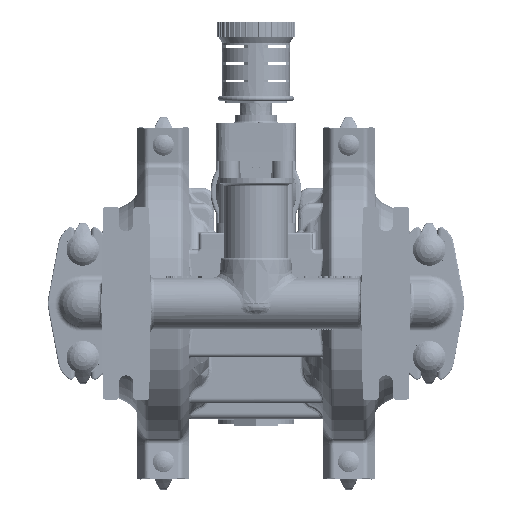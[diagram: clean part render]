
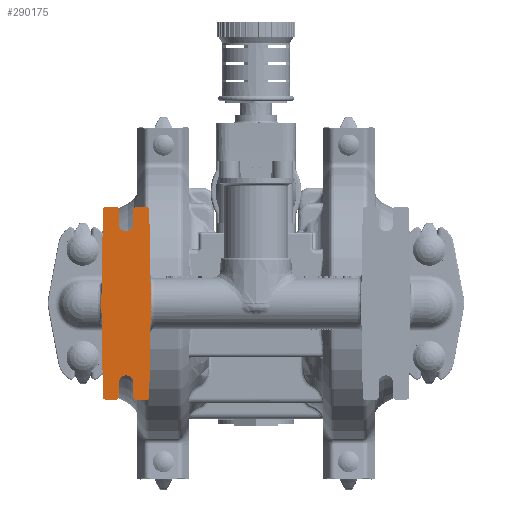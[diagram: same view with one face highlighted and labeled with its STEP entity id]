
A CAD part, front view. The second image highlights one B-rep face of the part: STEP entity #290175.
In plain terms, the highlighted planar face has unit normal (0, -1, 0).
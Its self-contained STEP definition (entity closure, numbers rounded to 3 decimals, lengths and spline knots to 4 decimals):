
#196758=DIRECTION('',(0.017,0.,-1.));
#196759=VECTOR('',#196758,2.4414);
#196760=CARTESIAN_POINT('',(-2.774,-5.7,2.441));
#196761=LINE('',#196760,#196759);
#196892=DIRECTION('',(1.,0.,0.));
#196893=VECTOR('',#196892,0.2903);
#196894=CARTESIAN_POINT('',(-3.916,-5.7,-2.5));
#196895=LINE('',#196894,#196893);
#196908=CARTESIAN_POINT('',(-3.6258,-5.7,-2.44));
#196909=DIRECTION('',(0.,1.,0.));
#196910=DIRECTION('',(1.,0.,-0.009));
#196911=AXIS2_PLACEMENT_3D('',#196908,#196909,#196910);
#196918=DIRECTION('',(0.009,0.,1.));
#196919=VECTOR('',#196918,0.376);
#196920=CARTESIAN_POINT('',(-3.5658,-5.7,-2.4405));
#196921=LINE('',#196920,#196919);
#196934=CARTESIAN_POINT('',(-3.375,-5.7,-2.06));
#196935=DIRECTION('',(0.,-1.,0.));
#196936=DIRECTION('',(1.,0.,-0.024));
#196937=AXIS2_PLACEMENT_3D('',#196934,#196935,#196936);
#197052=DIRECTION('',(0.009,0.,-1.));
#197053=VECTOR('',#197052,0.376);
#197054=CARTESIAN_POINT('',(-3.1875,-5.7,-2.0646));
#197055=LINE('',#197054,#197053);
#197068=CARTESIAN_POINT('',(-3.1242,-5.7,-2.44));
#197069=DIRECTION('',(0.,1.,0.));
#197070=DIRECTION('',(0.,0.,-1.));
#197071=AXIS2_PLACEMENT_3D('',#197068,#197069,#197070);
#197078=DIRECTION('',(1.,0.,0.));
#197079=VECTOR('',#197078,0.2903);
#197080=CARTESIAN_POINT('',(-3.1242,-5.7,-2.5));
#197081=LINE('',#197080,#197079);
#197094=CARTESIAN_POINT('',(-2.834,-5.7,-2.44));
#197095=DIRECTION('',(0.,-1.,0.));
#197096=DIRECTION('',(0.,0.,-1.));
#197097=AXIS2_PLACEMENT_3D('',#197094,#197095,#197096);
#197104=DIRECTION('',(-0.017,0.,-1.));
#197105=VECTOR('',#197104,2.4414);
#197106=CARTESIAN_POINT('',(-2.7314,-5.7,0.));
#197107=LINE('',#197106,#197105);
#198065=CARTESIAN_POINT('',(-3.916,-5.7,-2.44));
#198066=DIRECTION('',(0.,1.,0.));
#198067=DIRECTION('',(0.,0.,-1.));
#198068=AXIS2_PLACEMENT_3D('',#198065,#198066,#198067);
#198075=DIRECTION('',(0.017,0.,-1.));
#198076=VECTOR('',#198075,2.4414);
#198077=CARTESIAN_POINT('',(-4.0186,-5.7,0.));
#198078=LINE('',#198077,#198076);
#198894=DIRECTION('',(0.017,0.,1.));
#198895=VECTOR('',#198894,2.4414);
#198896=CARTESIAN_POINT('',(-4.0186,-5.7,0.));
#198897=LINE('',#198896,#198895);
#199582=CARTESIAN_POINT('',(-3.6258,-5.7,2.44));
#199583=DIRECTION('',(0.,1.,0.));
#199584=DIRECTION('',(0.,0.,1.));
#199585=AXIS2_PLACEMENT_3D('',#199582,#199583,#199584);
#199592=DIRECTION('',(-1.,0.,0.));
#199593=VECTOR('',#199592,0.2903);
#199594=CARTESIAN_POINT('',(-3.6258,-5.7,2.5));
#199595=LINE('',#199594,#199593);
#199608=CARTESIAN_POINT('',(-3.916,-5.7,2.44));
#199609=DIRECTION('',(0.,-1.,0.));
#199610=DIRECTION('',(0.,0.,1.));
#199611=AXIS2_PLACEMENT_3D('',#199608,#199609,#199610);
#199623=DIRECTION('',(-0.009,0.,1.));
#199624=VECTOR('',#199623,0.376);
#199625=CARTESIAN_POINT('',(-3.5625,-5.7,2.0646));
#199626=LINE('',#199625,#199624);
#199735=CARTESIAN_POINT('',(-3.1242,-5.7,2.44));
#199736=DIRECTION('',(0.,1.,0.));
#199737=DIRECTION('',(-1.,0.,0.009));
#199738=AXIS2_PLACEMENT_3D('',#199735,#199736,#199737);
#199745=DIRECTION('',(-0.009,0.,-1.));
#199746=VECTOR('',#199745,0.376);
#199747=CARTESIAN_POINT('',(-3.1842,-5.7,2.4405));
#199748=LINE('',#199747,#199746);
#199761=CARTESIAN_POINT('',(-3.375,-5.7,2.06));
#199762=DIRECTION('',(0.,-1.,0.));
#199763=DIRECTION('',(-1.,0.,0.024));
#199764=AXIS2_PLACEMENT_3D('',#199761,#199762,#199763);
#199883=DIRECTION('',(-1.,0.,0.));
#199884=VECTOR('',#199883,0.2903);
#199885=CARTESIAN_POINT('',(-2.834,-5.7,2.5));
#199886=LINE('',#199885,#199884);
#199909=CARTESIAN_POINT('',(-2.834,-5.7,2.44));
#199910=DIRECTION('',(0.,1.,0.));
#199911=DIRECTION('',(0.,0.,1.));
#199912=AXIS2_PLACEMENT_3D('',#199909,#199910,#199911);
#282991=CARTESIAN_POINT('',(-3.916,-5.7,-2.5));
#282992=CARTESIAN_POINT('',(-3.6258,-5.7,-2.5));
#282993=VERTEX_POINT('',#282991);
#282994=VERTEX_POINT('',#282992);
#282995=CARTESIAN_POINT('',(-2.834,-5.7,2.5));
#282996=CARTESIAN_POINT('',(-3.1242,-5.7,2.5));
#282997=VERTEX_POINT('',#282995);
#282998=VERTEX_POINT('',#282996);
#283007=CARTESIAN_POINT('',(-3.1875,-5.7,-2.0646));
#283008=CARTESIAN_POINT('',(-3.5625,-5.7,-2.0646));
#283009=VERTEX_POINT('',#283007);
#283010=VERTEX_POINT('',#283008);
#283011=CARTESIAN_POINT('',(-3.1242,-5.7,-2.5));
#283012=CARTESIAN_POINT('',(-2.834,-5.7,-2.5));
#283013=VERTEX_POINT('',#283011);
#283014=VERTEX_POINT('',#283012);
#283015=CARTESIAN_POINT('',(-3.6258,-5.7,2.5));
#283016=CARTESIAN_POINT('',(-3.916,-5.7,2.5));
#283017=VERTEX_POINT('',#283015);
#283018=VERTEX_POINT('',#283016);
#283035=CARTESIAN_POINT('',(-3.5658,-5.7,-2.4405));
#283036=VERTEX_POINT('',#283035);
#283037=CARTESIAN_POINT('',(-3.1842,-5.7,-2.4405));
#283038=VERTEX_POINT('',#283037);
#283039=CARTESIAN_POINT('',(-3.1842,-5.7,2.4405));
#283040=CARTESIAN_POINT('',(-3.1875,-5.7,2.0646));
#283041=VERTEX_POINT('',#283039);
#283042=VERTEX_POINT('',#283040);
#283043=CARTESIAN_POINT('',(-3.5625,-5.7,2.0646));
#283044=VERTEX_POINT('',#283043);
#283045=CARTESIAN_POINT('',(-3.5658,-5.7,2.4405));
#283046=VERTEX_POINT('',#283045);
#283055=CARTESIAN_POINT('',(-2.774,-5.7,2.441));
#283056=CARTESIAN_POINT('',(-2.7314,-5.7,0.));
#283057=VERTEX_POINT('',#283055);
#283058=VERTEX_POINT('',#283056);
#283059=CARTESIAN_POINT('',(-4.0186,-5.7,0.));
#283060=CARTESIAN_POINT('',(-3.976,-5.7,2.441));
#283061=VERTEX_POINT('',#283059);
#283062=VERTEX_POINT('',#283060);
#283349=CARTESIAN_POINT('',(-2.774,-5.7,-2.441));
#283350=VERTEX_POINT('',#283349);
#283351=CARTESIAN_POINT('',(-3.976,-5.7,-2.441));
#283352=VERTEX_POINT('',#283351);
#290125=CARTESIAN_POINT('',(4.125,-5.7,-2.75));
#290126=DIRECTION('',(0.,1.,0.));
#290127=DIRECTION('',(-1.,0.,0.));
#290128=AXIS2_PLACEMENT_3D('',#290125,#290126,#290127);
#290129=PLANE('',#290128);
#290131=ORIENTED_EDGE('',*,*,#290130,.F.);
#290133=ORIENTED_EDGE('',*,*,#290132,.T.);
#290135=ORIENTED_EDGE('',*,*,#290134,.F.);
#290137=ORIENTED_EDGE('',*,*,#290136,.T.);
#290139=ORIENTED_EDGE('',*,*,#290138,.F.);
#290141=ORIENTED_EDGE('',*,*,#290140,.F.);
#290143=ORIENTED_EDGE('',*,*,#290142,.T.);
#290145=ORIENTED_EDGE('',*,*,#290144,.F.);
#290147=ORIENTED_EDGE('',*,*,#290146,.T.);
#290149=ORIENTED_EDGE('',*,*,#290148,.F.);
#290151=ORIENTED_EDGE('',*,*,#290150,.T.);
#290153=ORIENTED_EDGE('',*,*,#290152,.F.);
#290155=ORIENTED_EDGE('',*,*,#290154,.T.);
#290156=ORIENTED_EDGE('',*,*,#290110,.T.);
#290158=ORIENTED_EDGE('',*,*,#290157,.T.);
#290160=ORIENTED_EDGE('',*,*,#290159,.F.);
#290162=ORIENTED_EDGE('',*,*,#290161,.F.);
#290164=ORIENTED_EDGE('',*,*,#290163,.T.);
#290166=ORIENTED_EDGE('',*,*,#290165,.F.);
#290168=ORIENTED_EDGE('',*,*,#290167,.T.);
#290170=ORIENTED_EDGE('',*,*,#290169,.F.);
#290172=ORIENTED_EDGE('',*,*,#290171,.T.);
#290173=EDGE_LOOP('',(#290131,#290133,#290135,#290137,#290139,#290141,#290143,
#290145,#290147,#290149,#290151,#290153,#290155,#290156,#290158,#290160,#290162,
#290164,#290166,#290168,#290170,#290172));
#290174=FACE_OUTER_BOUND('',#290173,.F.);
#196912=CIRCLE('',#196911,0.06);
#196938=CIRCLE('',#196937,0.1876);
#197072=CIRCLE('',#197071,0.06);
#197098=CIRCLE('',#197097,0.06);
#198069=CIRCLE('',#198068,0.06);
#199586=CIRCLE('',#199585,0.06);
#199612=CIRCLE('',#199611,0.06);
#199739=CIRCLE('',#199738,0.06);
#199765=CIRCLE('',#199764,0.1876);
#199913=CIRCLE('',#199912,0.06);
#290110=EDGE_CURVE('',#283057,#283058,#196761,.T.);
#290130=EDGE_CURVE('',#282993,#282994,#196895,.T.);
#290132=EDGE_CURVE('',#282993,#283352,#198069,.T.);
#290134=EDGE_CURVE('',#283061,#283352,#198078,.T.);
#290136=EDGE_CURVE('',#283061,#283062,#198897,.T.);
#290138=EDGE_CURVE('',#283018,#283062,#199612,.T.);
#290140=EDGE_CURVE('',#283017,#283018,#199595,.T.);
#290142=EDGE_CURVE('',#283017,#283046,#199586,.T.);
#290144=EDGE_CURVE('',#283044,#283046,#199626,.T.);
#290146=EDGE_CURVE('',#283044,#283042,#199765,.T.);
#290148=EDGE_CURVE('',#283041,#283042,#199748,.T.);
#290150=EDGE_CURVE('',#283041,#282998,#199739,.T.);
#290152=EDGE_CURVE('',#282997,#282998,#199886,.T.);
#290154=EDGE_CURVE('',#282997,#283057,#199913,.T.);
#290157=EDGE_CURVE('',#283058,#283350,#197107,.T.);
#290159=EDGE_CURVE('',#283014,#283350,#197098,.T.);
#290161=EDGE_CURVE('',#283013,#283014,#197081,.T.);
#290163=EDGE_CURVE('',#283013,#283038,#197072,.T.);
#290165=EDGE_CURVE('',#283009,#283038,#197055,.T.);
#290167=EDGE_CURVE('',#283009,#283010,#196938,.T.);
#290169=EDGE_CURVE('',#283036,#283010,#196921,.T.);
#290171=EDGE_CURVE('',#283036,#282994,#196912,.T.);
#290175=ADVANCED_FACE('',(#290174),#290129,.F.);
